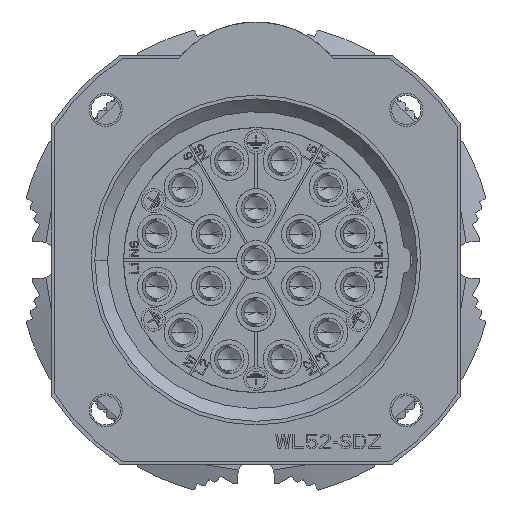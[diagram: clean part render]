
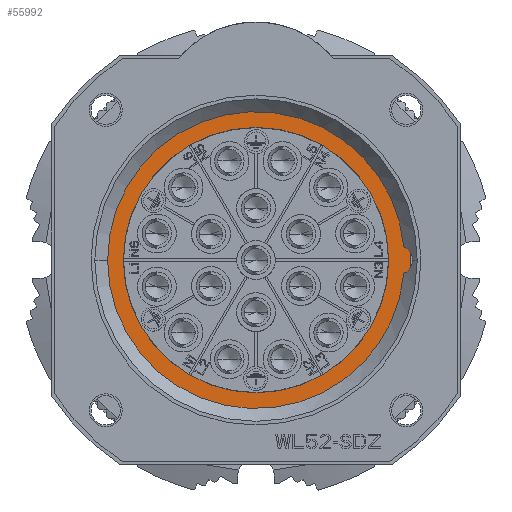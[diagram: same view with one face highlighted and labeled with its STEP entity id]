
A CAD part, left-side view. The second image highlights one B-rep face of the part: STEP entity #55992.
In plain terms, the highlighted planar face has unit normal (-1, 0, 0).
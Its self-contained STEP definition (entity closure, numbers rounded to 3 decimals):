
#13761=CARTESIAN_POINT('',(4.2,-19.35,0.));
#13762=DIRECTION('',(-1.,0.,0.));
#13763=DIRECTION('',(0.,-0.808,-0.589));
#13764=AXIS2_PLACEMENT_3D('',#13761,#13762,#13763);
#13774=CARTESIAN_POINT('',(4.2,-19.35,0.));
#13775=DIRECTION('',(-1.,0.,0.));
#13776=DIRECTION('',(0.,-0.858,0.513));
#13777=AXIS2_PLACEMENT_3D('',#13774,#13775,#13776);
#13815=CARTESIAN_POINT('',(4.2,0.,0.));
#13816=DIRECTION('',(-1.,0.,0.));
#13817=DIRECTION('',(0.,1.,0.));
#13818=AXIS2_PLACEMENT_3D('',#13815,#13816,#13817);
#13820=CARTESIAN_POINT('',(4.2,0.,0.));
#13821=DIRECTION('',(-1.,0.,0.));
#13822=DIRECTION('',(0.,-1.,0.));
#13823=AXIS2_PLACEMENT_3D('',#13820,#13821,#13822);
#26021=CARTESIAN_POINT('',(4.2,0.,0.));
#26022=DIRECTION('',(1.,0.,0.));
#26023=DIRECTION('',(0.,-0.998,-0.056));
#26024=AXIS2_PLACEMENT_3D('',#26021,#26022,#26023);
#26078=CARTESIAN_POINT('',(4.2,0.,0.));
#26079=DIRECTION('',(-1.,0.,0.));
#26080=DIRECTION('',(0.,-0.999,-0.049));
#26081=AXIS2_PLACEMENT_3D('',#26078,#26079,#26080);
#34986=CARTESIAN_POINT('',(4.2,-18.1,0.));
#34987=VERTEX_POINT('',#34986);
#34988=CARTESIAN_POINT('',(4.2,18.1,0.));
#34989=VERTEX_POINT('',#34988);
#37480=CARTESIAN_POINT('',(4.2,-20.967,-1.177));
#37481=CARTESIAN_POINT('',(4.2,-21.066,-1.027));
#37482=VERTEX_POINT('',#37480);
#37483=VERTEX_POINT('',#37481);
#37484=CARTESIAN_POINT('',(4.2,-21.066,1.027));
#37485=CARTESIAN_POINT('',(4.2,-20.967,1.177));
#37486=VERTEX_POINT('',#37484);
#37487=VERTEX_POINT('',#37485);
#55973=CARTESIAN_POINT('',(4.2,0.,0.));
#55974=DIRECTION('',(1.,0.,0.));
#55975=DIRECTION('',(0.,-1.,0.));
#55976=AXIS2_PLACEMENT_3D('',#55973,#55974,#55975);
#55977=PLANE('',#55976);
#55978=ORIENTED_EDGE('',*,*,#55945,.F.);
#55980=ORIENTED_EDGE('',*,*,#55979,.T.);
#55981=ORIENTED_EDGE('',*,*,#55953,.F.);
#55983=ORIENTED_EDGE('',*,*,#55982,.F.);
#55984=EDGE_LOOP('',(#55978,#55980,#55981,#55983));
#55985=FACE_OUTER_BOUND('',#55984,.F.);
#55987=ORIENTED_EDGE('',*,*,#55986,.T.);
#55989=ORIENTED_EDGE('',*,*,#55988,.T.);
#55990=EDGE_LOOP('',(#55987,#55989));
#55991=FACE_BOUND('',#55990,.F.);
#55992=ADVANCED_FACE('',(#55985,#55991),#55977,.F.);
#13765=CIRCLE('',#13764,2.);
#13778=CIRCLE('',#13777,2.);
#13819=CIRCLE('',#13818,18.1);
#13824=CIRCLE('',#13823,18.1);
#26025=CIRCLE('',#26024,21.);
#26082=CIRCLE('',#26081,21.091);
#55945=EDGE_CURVE('',#37482,#37483,#13765,.T.);
#55953=EDGE_CURVE('',#37486,#37487,#13778,.T.);
#55979=EDGE_CURVE('',#37482,#37487,#26025,.T.);
#55982=EDGE_CURVE('',#37483,#37486,#26082,.T.);
#55986=EDGE_CURVE('',#34989,#34987,#13819,.T.);
#55988=EDGE_CURVE('',#34987,#34989,#13824,.T.);
